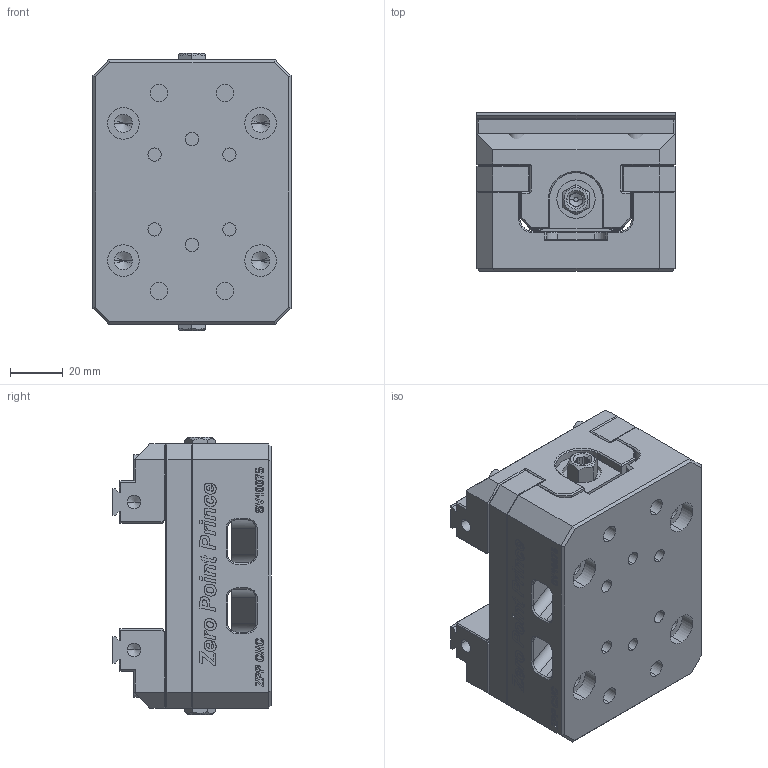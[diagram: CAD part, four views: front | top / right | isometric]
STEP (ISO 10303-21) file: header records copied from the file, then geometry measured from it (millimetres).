
FILE_DESCRIPTION((''),'2;1');
FILE_NAME('SV10075_ASM','2025-08-14T09:20:56',('XF'),(''),'CREO PARAMETRIC BY PTC INC, 2023073','CREO PARAMETRIC BY PTC INC, 2023073','');
FILE_SCHEMA(('CONFIG_CONTROL_DESIGN'));
Products named in the file (174): HQ10075-1_59_1_1; HQ10075-4_32_1_1; HQ10075-2_55_1_1_1; HQ10075-2_55_2_1_1; HQ10075-2_55_3_1_1; HQ10075-2_55_4_1_1; HQ10075-2_55_5_1_1; HQ10075-2_55_6_1_1; HQ10075-2_55_7_1_1; HQ10075-2_55_8_1_1; HQ10075-2_55_9_1_1; HQ10075-2_55_10_1_1; HQ10075-2_55_11_1_1; HQ10075-2_55_12_1_1; HQ10075-2_55_13_1_1; HQ10075-2_55_14_1_1; HQ10075-2_55_15_1_1; HQ10075-2_55_16_1_1; HQ10075-2_55_17_1_1; HQ10075-2_55_18_1_1; HQ10075-2_55_19_1_1; HQ10075-2_55_20_1_1; HQ10075-2_55_21_1_1; HQ10075-2_55_22_1_1; HQ10075-2_55_23_1_1; HQ10075-2_55_24_1_1; HQ10075-2_55_25_1_1; HQ10075-2_55_26_1_1; HQ10075-2_55_27_1_1; HQ10075-2_55_28_1_1; HQ10075-2_55_29_1_1; HQ10075-2_55_30_1_1; HQ10075-2_55_31_1_1; HQ10075-2_55_32_1_1; HQ10075-2_55_33_1_1; HQ10075-2_55_34_1_1; HQ10075-2_55_35_1_1; HQ10075-2_55_36_1_1; HQ10075-2_55_37_1_1; HQ10075-2_55_38_1_1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
Assembly tree (180 placements, depth 6):
  SV10075_ASM
    SV10075_ASM_1_ASM
      HQ10075-Z_ASM_ASM_1_ASM_1_ASM
        HQ10075-Z_ASM_78_ASM_1_ASM_1_ASM
          HQ10075-1_59_1_1
          HQ10075-4_32_1_1
          HQ10075-2_55_ASM_1_ASM_1_ASM  x2
            HQ10075-2_55_1_1_1
            HQ10075-2_55_2_1_1
            HQ10075-2_55_3_1_1
            HQ10075-2_55_4_1_1
            HQ10075-2_55_5_1_1
            HQ10075-2_55_6_1_1
            HQ10075-2_55_7_1_1
            HQ10075-2_55_8_1_1
            HQ10075-2_55_9_1_1
            HQ10075-2_55_10_1_1
            HQ10075-2_55_11_1_1
            HQ10075-2_55_12_1_1
            HQ10075-2_55_13_1_1
            HQ10075-2_55_14_1_1
            HQ10075-2_55_15_1_1
            HQ10075-2_55_16_1_1
            HQ10075-2_55_17_1_1
            HQ10075-2_55_18_1_1
            HQ10075-2_55_19_1_1
            HQ10075-2_55_20_1_1
            HQ10075-2_55_21_1_1
            HQ10075-2_55_22_1_1
            HQ10075-2_55_23_1_1
            HQ10075-2_55_24_1_1
            HQ10075-2_55_25_1_1
            HQ10075-2_55_26_1_1
            HQ10075-2_55_27_1_1
            HQ10075-2_55_28_1_1
            HQ10075-2_55_29_1_1
            HQ10075-2_55_30_1_1
            HQ10075-2_55_31_1_1
            HQ10075-2_55_32_1_1
            HQ10075-2_55_33_1_1
            HQ10075-2_55_34_1_1
            HQ10075-2_55_35_1_1
            HQ10075-2_55_36_1_1
            HQ10075-2_55_37_1_1
            HQ10075-2_55_38_1_1
            HQ10075-2_55_39_1_1
            HQ10075-2_55_40_1_1
            HQ10075-2_55_41_1_1
            HQ10075-2_55_42_1_1
            HQ10075-2_55_43_1_1
            HQ10075-2_55_44_1_1
            HQ10075-2_55_45_1_1
            HQ10075-2_55_46_1_1
            HQ10075-2_55_47_1_1
            HQ10075-2_55_48_1_1
            HQ10075-2_55_49_1_1
            HQ10075-2_55_50_1_1
            HQ10075-2_55_51_1_1
            HQ10075-2_55_52_1_1
            HQ10075-2_55_53_1_1
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Bounding box: 75 x 60.05 x 105 mm (x, y, z)
Volume: 295417.6 mm3; surface area: 93459.5 mm2
Topology: 339 solids, 349 shells, 4792 faces, 11926 edges, 7928 vertices
Faces by surface type: plane 3739, extrusion 620, cylinder 233, cone 152, torus 28, bspline 20
Entity records: 100819 total; most frequent: CARTESIAN_POINT 25114, ORIENTED_EDGE 15512, DIRECTION 13356, EDGE_CURVE 7786, VECTOR 6464, LINE 5844, VERTEX_POINT 5161, AXIS2_PLACEMENT_3D 3446
